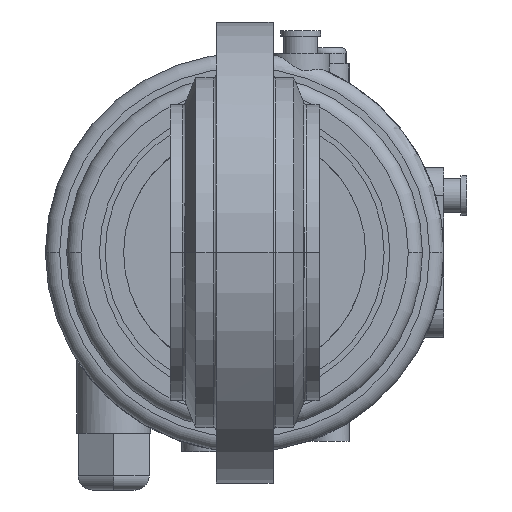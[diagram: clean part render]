
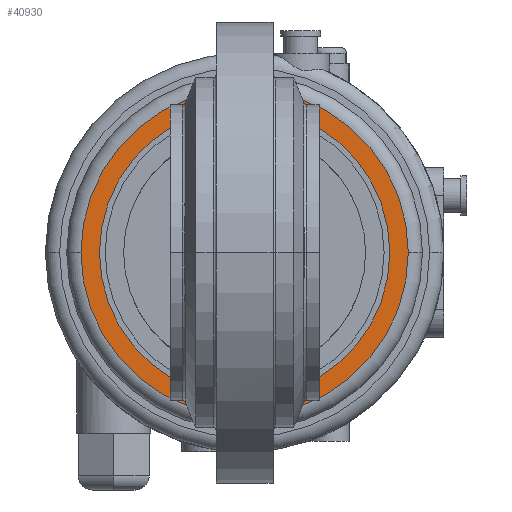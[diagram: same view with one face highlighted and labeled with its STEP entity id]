
A CAD part, front view. The second image highlights one B-rep face of the part: STEP entity #40930.
In plain terms, the highlighted planar face has unit normal (0, -1, 0).
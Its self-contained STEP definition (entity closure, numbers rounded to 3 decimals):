
#39460=CARTESIAN_POINT('',(51.,6.224,0.));
#39470=VERTEX_POINT('',#39460);
#39500=CARTESIAN_POINT('',(0.,6.224,0.));
#39510=DIRECTION('',(0.,1.,0.));
#39520=DIRECTION('',(-1.,0.,0.));
#39530=AXIS2_PLACEMENT_3D('',#39500,#39510,#39520);
#39540=CIRCLE('',#39530,51.);
#39550=CARTESIAN_POINT('',(-51.,6.224,0.));
#39560=VERTEX_POINT('',#39550);
#39570=EDGE_CURVE('',#39470,#39560,#39540,.T.);
#39980=CARTESIAN_POINT('',(-57.5,6.224,0.));
#39990=VERTEX_POINT('',#39980);
#40020=CARTESIAN_POINT('',(0.,6.224,0.));
#40030=DIRECTION('',(0.,1.,0.));
#40040=DIRECTION('',(0.,0.,1.));
#40050=AXIS2_PLACEMENT_3D('',#40020,#40030,#40040);
#40060=CIRCLE('',#40050,57.5);
#40070=CARTESIAN_POINT('',(0.,6.224,-57.5));
#40080=VERTEX_POINT('',#40070);
#40090=EDGE_CURVE('',#40080,#39990,#40060,.T.);
#40110=CARTESIAN_POINT('',(57.5,6.224,0.));
#40120=VERTEX_POINT('',#40110);
#40130=EDGE_CURVE('',#40120,#40080,#40060,.T.);
#40770=CARTESIAN_POINT('',(0.,6.224,0.));
#40780=DIRECTION('',(0.,1.,0.));
#40790=DIRECTION('',(0.,0.,1.));
#40800=AXIS2_PLACEMENT_3D('',#40770,#40780,#40790);
#40810=PLANE('',#40800);
#40820=EDGE_CURVE('',#39560,#39470,#39540,.T.);
#40830=ORIENTED_EDGE('',*,*,#40820,.T.);
#40840=ORIENTED_EDGE('',*,*,#39570,.T.);
#40850=EDGE_LOOP('',(#40840,#40830));
#40860=FACE_BOUND('',#40850,.T.);
#40870=ORIENTED_EDGE('',*,*,#40090,.F.);
#40880=EDGE_CURVE('',#39990,#40120,#40060,.T.);
#40890=ORIENTED_EDGE('',*,*,#40880,.F.);
#40900=ORIENTED_EDGE('',*,*,#40130,.F.);
#40910=EDGE_LOOP('',(#40900,#40890,#40870));
#40920=FACE_OUTER_BOUND('',#40910,.T.);
#40930=ADVANCED_FACE('',(#40860,#40920),#40810,.F.);
